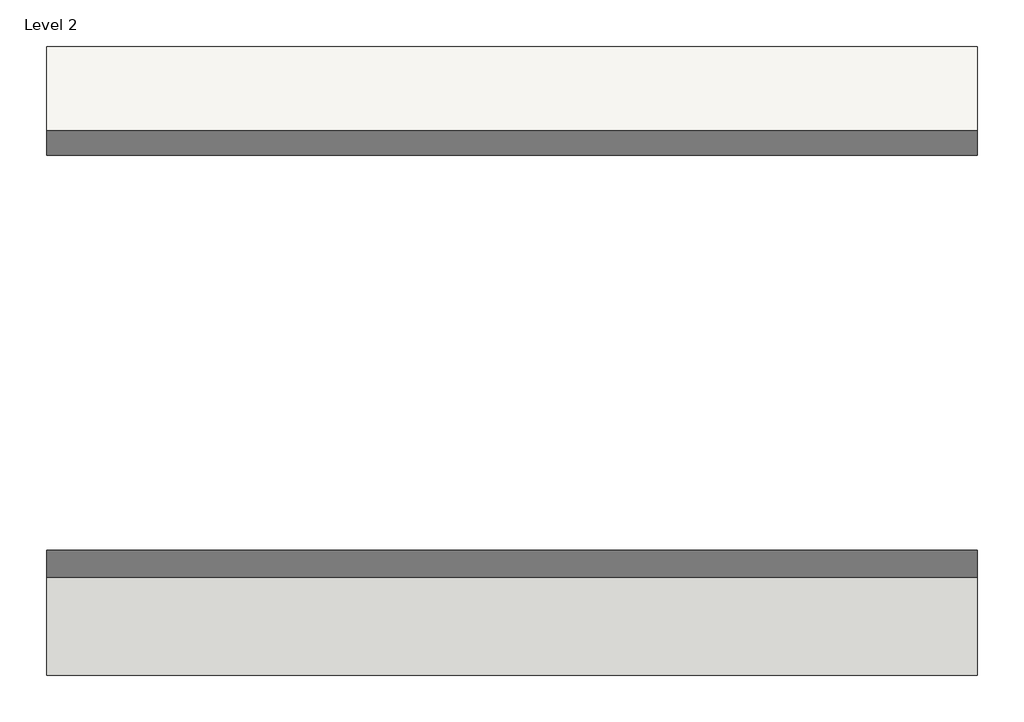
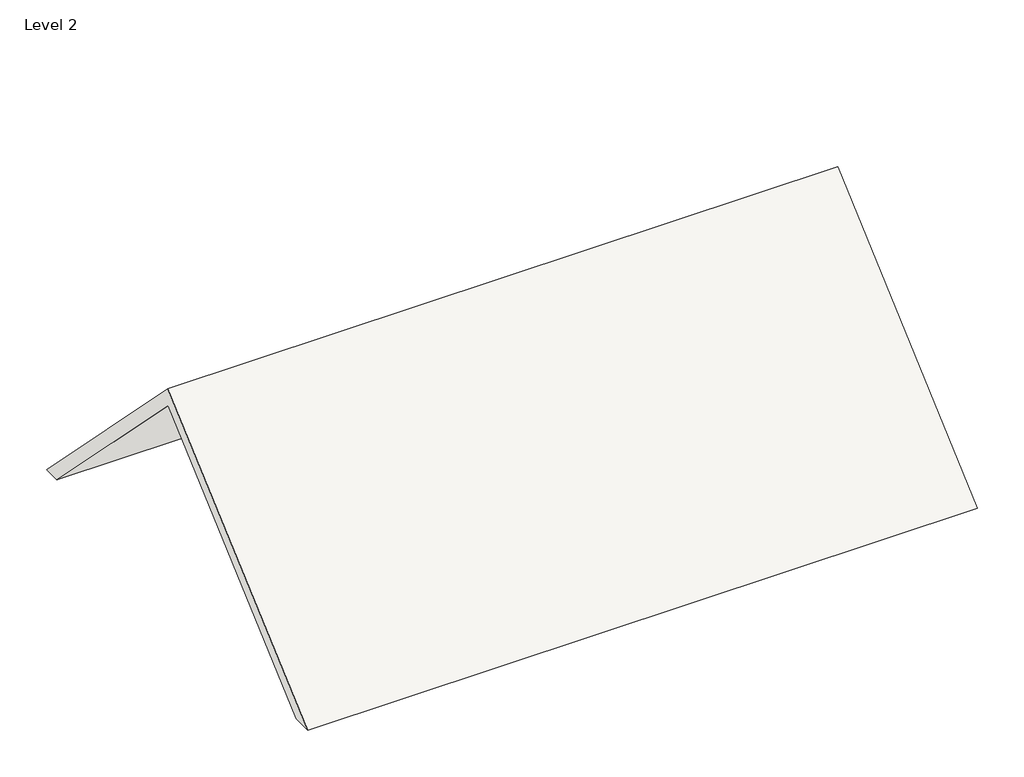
# One storey: 1 roof.
"""IFC4 building model written with IfcOpenShell, lengths in millimetres."""

import ifcopenshell
import ifcopenshell.guid

model = None  # the IFC model being written
_history = None  # IfcOwnerHistory: only IFC2X3 demands one
_inside = {}  # id of a spatial element -> (the spatial element, [elements in it])
_under = {}  # id of a project, library or spatial element -> (it, [spatial elements below it])
_declared = {}  # id of a project -> (the project, [libraries it declares])
_typed = {}  # id of a type object -> (the type object, [elements of that type])
_made_of = {}  # id of a material, layer set ... -> (it, [elements and type objects made of it])


def new_model(schema):
    """Start an empty IFC model of exactly this schema.

    Asked for "IFC4X3", IfcOpenShell would pick the latest addendum, in which some entities
    have other attributes; the version numbers below select the first issue.
    IFC2X3 requires an IfcOwnerHistory on every rooted entity: one is made here for all.
    """
    global model, _history
    if schema == "IFC4X3":
        model = ifcopenshell.file(schema_version=(4, 3, 0, 0))
    else:
        model = ifcopenshell.file(schema=schema)
    _inside.clear()
    _under.clear()
    _declared.clear()
    _typed.clear()
    _made_of.clear()
    _history = None
    if model.schema == "IFC2X3":
        org = make("IfcOrganization", Name="unknown")
        user = make(
            "IfcPersonAndOrganization",
            ThePerson=make("IfcPerson", FamilyName="unknown"),
            TheOrganization=org,
        )
        app = make(
            "IfcApplication",
            ApplicationDeveloper=org,
            Version="unknown",
            ApplicationFullName="unknown",
            ApplicationIdentifier="unknown",
        )
        _history = make(
            "IfcOwnerHistory",
            OwningUser=user,
            OwningApplication=app,
            ChangeAction="ADDED",
            CreationDate=0,
        )
    return model


def make(cls, **values):
    """One entity of the class cls with the attributes given. An attribute that is None is left unset."""
    return model.create_entity(
        cls, **{name: value for name, value in values.items() if value is not None}
    )


def rooted(cls, **values):
    """An entity with a GlobalId (a new one), such as an element, a storey or a relation."""
    return make(cls, GlobalId=ifcopenshell.guid.new(), OwnerHistory=_history, **values)


def si_unit(unit_type, name, prefix=None):
    """IfcSIUnit, for example si_unit("LENGTHUNIT", "METRE", prefix="MILLI")."""
    return make("IfcSIUnit", UnitType=unit_type, Prefix=prefix, Name=name)


def assignment(units):
    """IfcUnitAssignment: the units of a project."""
    return None if units is None else make("IfcUnitAssignment", Units=units)


def point(xyz):
    """IfcCartesianPoint."""
    return None if xyz is None else make("IfcCartesianPoint", Coordinates=xyz)


def direction(xyz):
    """IfcDirection."""
    return None if xyz is None else make("IfcDirection", DirectionRatios=xyz)


def frame(location, z_axis=None, x_axis=None):
    """IfcAxis2Placement3D, a coordinate frame: its origin and axes. An axis left out is left unset."""
    return make(
        "IfcAxis2Placement3D",
        Location=point(location),
        Axis=direction(z_axis),
        RefDirection=direction(x_axis),
    )


def origin():
    """The frame at (0, 0, 0) with its axes left unset."""
    return frame((0.0, 0.0, 0.0))


def place(relative_to, where):
    """IfcLocalPlacement: puts the frame where relative to a parent placement (None: the world)."""
    return make(
        "IfcLocalPlacement", PlacementRelTo=relative_to, RelativePlacement=where
    )


def context(
    kind, dimensions, precision=None, world=None, true_north=None, identifier=None
):
    """IfcGeometricRepresentationContext, for example the 3D "Model" context."""
    return make(
        "IfcGeometricRepresentationContext",
        ContextIdentifier=identifier,
        ContextType=kind,
        CoordinateSpaceDimension=dimensions,
        Precision=precision,
        WorldCoordinateSystem=world,
        TrueNorth=true_north,
    )


def project(units=None, contexts=None):
    """IfcProject with its units and contexts."""
    return rooted(
        "IfcProject",
        Name="project",
        RepresentationContexts=contexts,
        UnitsInContext=assignment(units),
    )


def spatial(cls, under=None, at=None, **own):
    """A site, building, storey or space (cls), placed at a placement, below another one or the project."""
    s = rooted(cls, ObjectPlacement=at, **own)
    if under is not None:
        _under.setdefault(under.id(), (under, []))[1].append(s)
    return s


def polyline(points):
    """IfcPolyline through the points."""
    return make("IfcPolyline", Points=[point(p) for p in points])


def outline(outer, holes=None, kind="AREA"):
    """IfcArbitraryClosedProfileDef: a profile drawn as a closed curve; with holes, ...WithVoids."""
    if holes is None:
        return make("IfcArbitraryClosedProfileDef", ProfileType=kind, OuterCurve=outer)
    return make(
        "IfcArbitraryProfileDefWithVoids",
        ProfileType=kind,
        OuterCurve=outer,
        InnerCurves=holes,
    )


def extrude(swept, where, along, depth):
    """IfcExtrudedAreaSolid: the profile swept, set in the frame where, extruded along a direction by depth."""
    return make(
        "IfcExtrudedAreaSolid",
        SweptArea=swept,
        Position=where,
        ExtrudedDirection=direction(along),
        Depth=depth,
    )


def shape(context_of_items, identifier, shape_type, items):
    """IfcShapeRepresentation: the items that make up one representation, for example the "Body"."""
    return make(
        "IfcShapeRepresentation",
        ContextOfItems=context_of_items,
        RepresentationIdentifier=identifier,
        RepresentationType=shape_type,
        Items=items,
    )


def made_of(thing, what):
    """Note that an element or type object is made of a material, layer set ...; save() writes the relation."""
    if what is not None:
        _made_of.setdefault(what.id(), (what, []))[1].append(thing)
    return thing


def element(
    cls,
    number,
    at=None,
    inside=None,
    cuts=None,
    type_object=None,
    material=None,
    context=None,
    identifier="Body",
    shape_type=None,
    held_by="IfcProductDefinitionShape",
    body=None,
    shapes=None,
    **own,
):
    """One element of the class cls, such as IfcWall. Its Tag is "e" and its number.

    at: its placement. inside: the storey or other place that contains it. cuts: it is an
    opening in that element (IfcRelVoidsElement). A single representation is given by context,
    identifier, shape_type and body (its items); several are given by shapes. held_by: the class
    of the entity that holds the representations. save() writes the other relations.
    """
    e = rooted(cls, Tag="e%d" % number, ObjectPlacement=at, **own)
    if body is not None:
        shapes = [shape(context, identifier, shape_type, body)]
    if shapes is not None:
        e.Representation = make(held_by, Representations=shapes)
    if inside is not None:
        _inside.setdefault(inside.id(), (inside, []))[1].append(e)
    if cuts is not None:
        rooted(
            "IfcRelVoidsElement", RelatingBuildingElement=cuts, RelatedOpeningElement=e
        )
    if type_object is not None:
        _typed.setdefault(type_object.id(), (type_object, []))[1].append(e)
    return made_of(e, material)


def aggregate(whole, parts):
    """IfcRelAggregates: a whole, such as a stair, and the parts it consists of."""
    return rooted("IfcRelAggregates", RelatingObject=whole, RelatedObjects=parts)


def save(model, path):
    """Write the relations noted so far, then the file.

    IfcRelAggregates (storeys below a building ...), IfcRelContainedInSpatialStructure (elements
    in a storey), IfcRelDefinesByType, IfcRelAssociatesMaterial and IfcRelDeclares: one each for
    every whole, place, type object, material and project.
    """
    for whole, parts in _under.values():
        aggregate(whole, parts)
    for where, things in _inside.values():
        rooted(
            "IfcRelContainedInSpatialStructure",
            RelatedElements=things,
            RelatingStructure=where,
        )
    for kind, things in _typed.values():
        rooted("IfcRelDefinesByType", RelatedObjects=things, RelatingType=kind)
    for what, things in _made_of.values():
        rooted("IfcRelAssociatesMaterial", RelatedObjects=things, RelatingMaterial=what)
    for by, libraries in _declared.values():
        rooted("IfcRelDeclares", RelatingContext=by, RelatedDefinitions=libraries)
    model.write(path)


model = new_model("IFC4")

# Units and contexts
model_context = context("Model", 3, world=origin())
ifc_project = project(units=[si_unit("LENGTHUNIT", "METRE", prefix="MILLI")], contexts=[model_context])

# Site, building, storey
site = spatial("IfcSite", under=ifc_project)
building = spatial("IfcBuilding", under=site)
storey = spatial("IfcBuildingStorey", under=building, Name="Level 2", Elevation=3048.0)

# Roof
placement = place(None, origin())
element("IfcRoof", 1, ObjectType="Generic - 12\"", at=placement, inside=storey, context=model_context, shape_type="SweptSolid", body=[
    extrude(outline(polyline([(-2927.7877516, 2768.6873282), (2843.5533515, 7861.0313406), (7841.8122484, 2796.1352208), (7413.5861749, 2796.1352208), (2829.0741887, 7441.7683201), (-2467.1006849, 2768.6873282), (-2927.7877516, 2768.6873282)])), frame((-7392.9466991, 0.0, 0.0), z_axis=(1.0, 0.0, 0.0), x_axis=(0.0, 1.0, 0.0)), (0.0, 0.0, 1.0), 15951.2),
])

save(model, "model.ifc")
